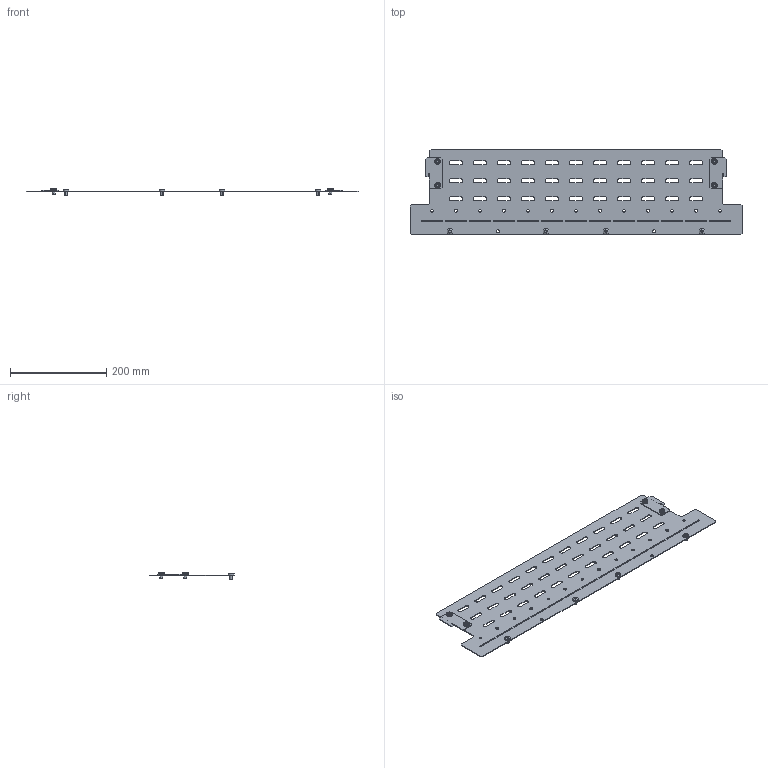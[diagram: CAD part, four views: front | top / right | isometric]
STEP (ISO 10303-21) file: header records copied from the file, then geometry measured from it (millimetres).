
FILE_DESCRIPTION (( 'STEP AP214' ), '1' );
FILE_NAME ('FO-00-SWVR-080 Ïåðåãîðîäêà ñåêöèîíèðîâàíèÿ âåðòèêàëüíàÿ êðûøè 800 ìì IP31.STEP', '2025-08-12T14:15:58', ( '' ), ( '' ), 'SwSTEP 2.0', 'SolidWorks 2023', '' );
FILE_SCHEMA (( 'AUTOMOTIVE_DESIGN' ));
Length unit declared in the file: millimetre
Products named in the file (1): FO-00-SWVR-080 Перегородка секционирования вертикальная крыши 800 мм IP31
Bounding box: 691.5 x 177.68 x 16.5 mm (x, y, z)
Volume: 166828.8 mm3; surface area: 221849.1 mm2
Topology: 1 solids, 1 shells, 528 faces, 1464 edges, 950 vertices
Faces by surface type: cylinder 272, plane 200, cone 24, torus 24, sphere 8
Entity records: 17429 total; most frequent: CARTESIAN_POINT 3211, DIRECTION 3048, ORIENTED_EDGE 2928, EDGE_CURVE 1464, AXIS2_PLACEMENT_3D 1123, VERTEX_POINT 950, VECTOR 802, LINE 802
